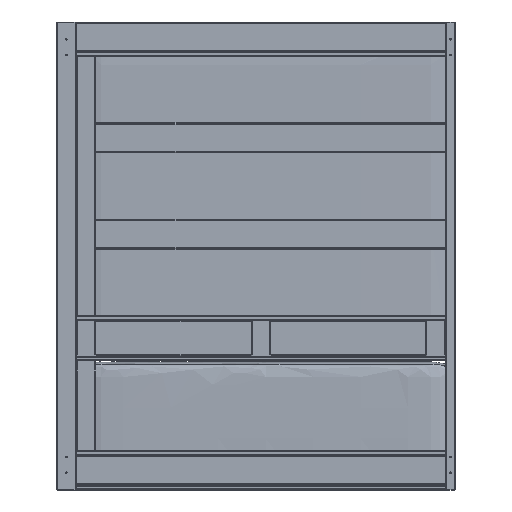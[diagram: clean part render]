
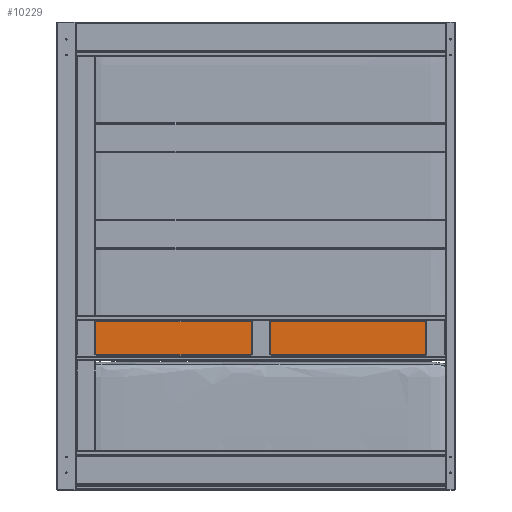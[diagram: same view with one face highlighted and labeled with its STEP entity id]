
A CAD part, front view. The second image highlights one B-rep face of the part: STEP entity #10229.
In plain terms, the highlighted planar face has unit normal (0, -1, 0) as drawn and (0, 1, 0) by its records, which use the part's own axes.
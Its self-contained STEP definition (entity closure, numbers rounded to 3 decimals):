
#1591=FACE_OUTER_BOUND('',#2218,.T.);
#2218=EDGE_LOOP('',(#9370,#9371,#9372,#9373));
#3227=LINE('',#18069,#4123);
#3229=LINE('',#18072,#4125);
#3233=LINE('',#18078,#4129);
#3237=LINE('',#18084,#4133);
#4123=VECTOR('',#15086,10.);
#4125=VECTOR('',#15090,10.);
#4129=VECTOR('',#15098,10.);
#4133=VECTOR('',#15106,10.);
#5057=VERTEX_POINT('',#17996);
#5060=VERTEX_POINT('',#18003);
#5066=VERTEX_POINT('',#18017);
#5072=VERTEX_POINT('',#18034);
#6502=EDGE_CURVE('',#5066,#5072,#3227,.T.);
#6504=EDGE_CURVE('',#5072,#5060,#3229,.T.);
#6508=EDGE_CURVE('',#5057,#5066,#3233,.T.);
#6512=EDGE_CURVE('',#5060,#5057,#3237,.T.);
#9370=ORIENTED_EDGE('',*,*,#6502,.F.);
#9371=ORIENTED_EDGE('',*,*,#6508,.F.);
#9372=ORIENTED_EDGE('',*,*,#6512,.F.);
#9373=ORIENTED_EDGE('',*,*,#6504,.F.);
#9695=PLANE('',#11979);
#10229=ADVANCED_FACE('',(#1591),#9695,.T.);
#11979=AXIS2_PLACEMENT_3D('',#18091,#15118,#15119);
#15086=DIRECTION('',(0.,0.,-1.));
#15090=DIRECTION('',(1.,0.,0.));
#15098=DIRECTION('',(-1.,0.,0.));
#15106=DIRECTION('',(0.,0.,1.));
#15118=DIRECTION('center_axis',(0.,1.,0.));
#15119=DIRECTION('ref_axis',(0.,0.,1.));
#17996=CARTESIAN_POINT('',(373.,20.,33.5));
#18003=CARTESIAN_POINT('',(373.,20.,-33.5));
#18017=CARTESIAN_POINT('',(-373.,20.,33.5));
#18034=CARTESIAN_POINT('',(-373.,20.,-33.5));
#18069=CARTESIAN_POINT('',(-373.,20.,-17.));
#18072=CARTESIAN_POINT('',(186.75,20.,-33.5));
#18078=CARTESIAN_POINT('',(-186.75,20.,33.5));
#18084=CARTESIAN_POINT('',(373.,20.,17.));
#18091=CARTESIAN_POINT('Origin',(0.,20.,0.));
